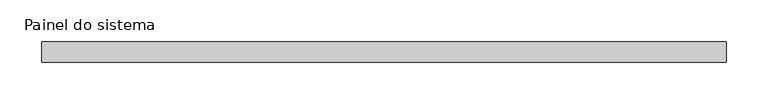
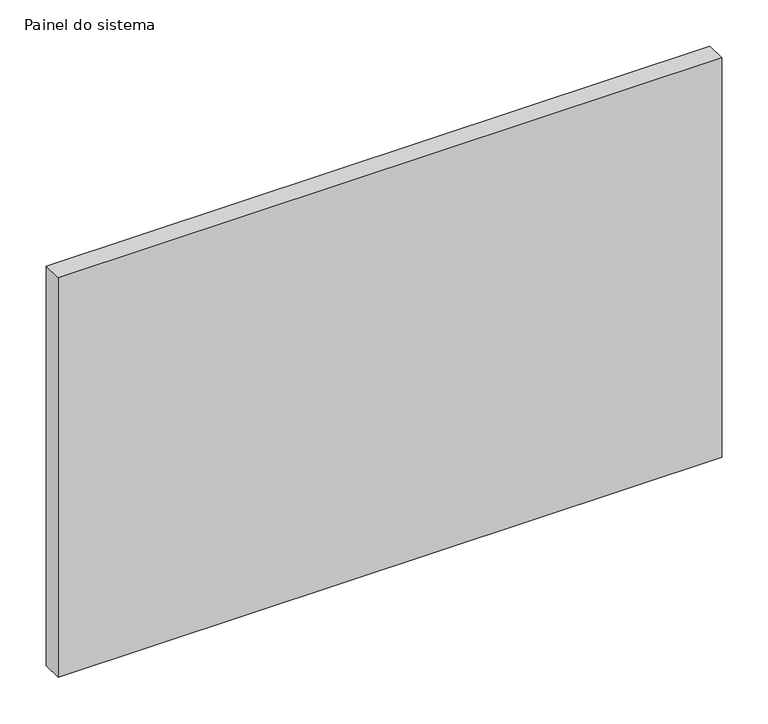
"""IFC4 building model written with IfcOpenShell, lengths in millimetres: plate geometry, Painel do sistema : Envidraçado."""

from ifc_helpers import new_model, si_unit, origin, origin_with_axes, place, context, project, spatial, polyline, outline, extrude, source, transform, mapped, element, save


def painel_do_sistema_b33edcc9(model_context):
    return source(origin(), model_context, "Body", "SweptSolid", [
        extrude(outline(polyline([(412.5, 24.5), (-412.5, 24.5), (-412.5, 49.5), (412.5, 49.5), (412.5, 24.5)])), origin_with_axes(), (0.0, 0.0, 1.0), 525.0),
    ])


if __name__ == "__main__":
    model = new_model("IFC4")
    model_context = context("Model", 3, world=origin())
    ifc_project = project(units=[si_unit("LENGTHUNIT", "METRE", prefix="MILLI")], contexts=[model_context])
    site = spatial("IfcSite", under=ifc_project)
    building = spatial("IfcBuilding", under=site)
    placement = place(None, origin())
    painel_do_sistema_shape = painel_do_sistema_b33edcc9(model_context)
    element("IfcPlate", 1, ObjectType="Painel do sistema : Envidraçado", at=placement, inside=building, context=model_context, shape_type="MappedRepresentation", body=[
        mapped(painel_do_sistema_shape, transform((0.0, 0.0, 0.0), x_axis=(1.0, 0.0, 0.0), y_axis=(0.0, 1.0, 0.0), z_axis=(0.0, 0.0, 1.0))),
    ])
    save(model, "model.ifc")
